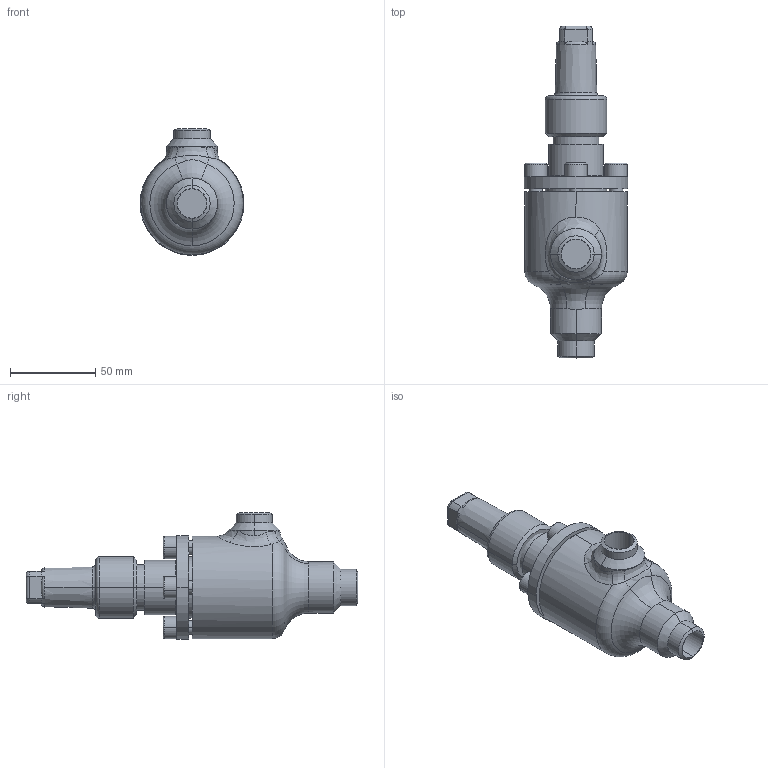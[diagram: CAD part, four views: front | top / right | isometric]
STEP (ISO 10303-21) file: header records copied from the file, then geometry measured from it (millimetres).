
FILE_DESCRIPTION (( 'STEP AP214' ), '1' );
FILE_NAME ('HRAB12400D10-DN015_R1_PS40.STEP', '2006-04-27T12:03:57', ( 'Herr Grams' ), ( 'AWP GmbH' ), 'SwSTEP 2.0', 'SolidWorks 2002296', '' );
FILE_SCHEMA (( 'AUTOMOTIVE_DESIGN' ));
Length unit declared in the file: millimetre
Products named in the file (6): HRAB12400D10-DN015_R1_PS40; Gehäuse16400-DN015_Standard; AVB16300K10_Deck+Schr-DN10-20_Standard; Deckel16300K10-DN10-20_Standard; Zylinderschraube-DIN912_M 8x 16; Kappe96300E10_DN6-20_Standard
Assembly tree (8 placements, depth 3):
  HRAB12400D10-DN015_R1_PS40
    AVB16300K10_Deck+Schr-DN10-20_Standard
      Zylinderschraube-DIN912_M 8x 16  x4
      Deckel16300K10-DN10-20_Standard
    Kappe96300E10_DN6-20_Standard
    Gehäuse16400-DN015_Standard
Bounding box: 61 x 195 x 74.5 mm (x, y, z)
Volume: 252767.3 mm3; surface area: 52141.6 mm2
Topology: 7 solids, 7 shells, 218 faces, 470 edges, 292 vertices
Faces by surface type: cylinder 85, plane 73, torus 26, cone 26, bspline 8
Entity records: 15060 total; most frequent: CARTESIAN_POINT 10783, DIRECTION 844, ORIENTED_EDGE 712, AXIS2_PLACEMENT_3D 361, EDGE_CURVE 356, VERTEX_POINT 220, CIRCLE 193, EDGE_LOOP 192
